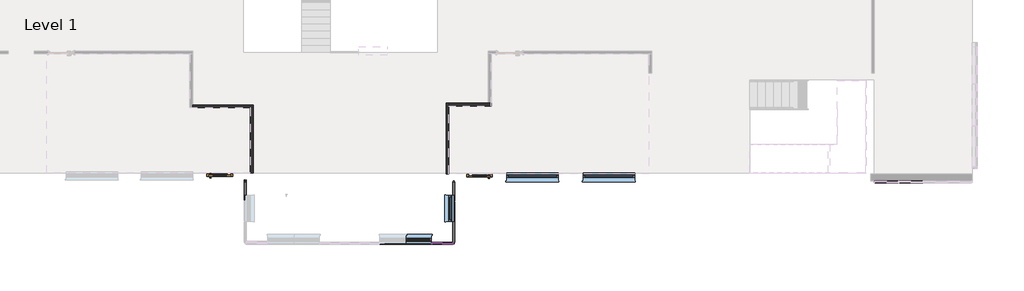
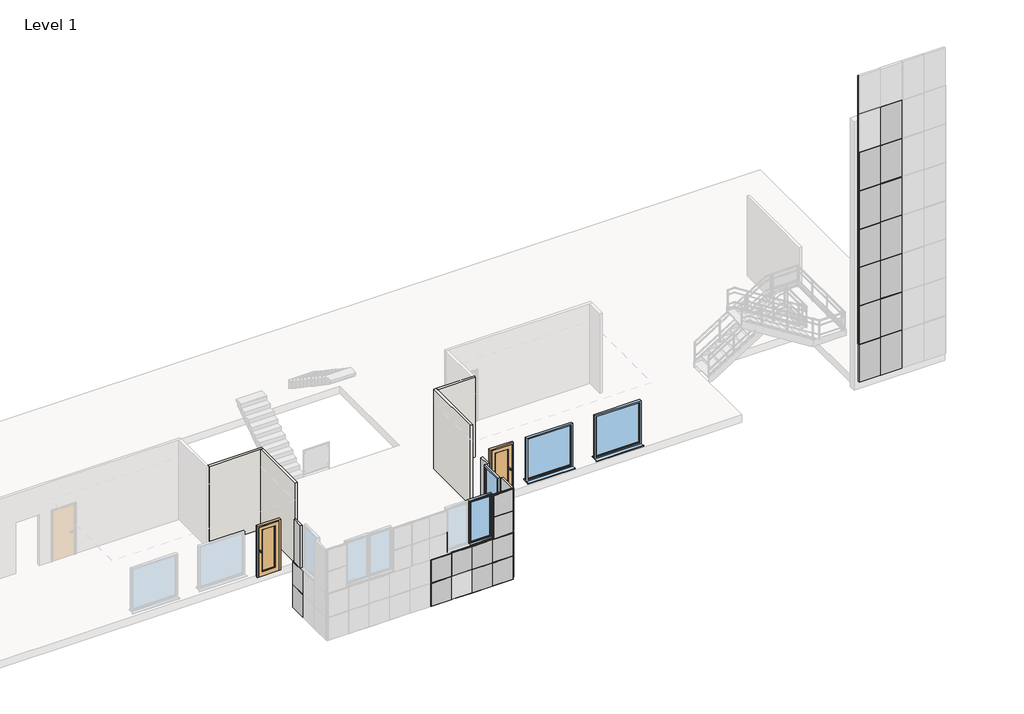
# One storey, part 2 of 10: 64 members, 33 plates, 4 walls, 4 windows, 2 doors.
"""IFC4 building model written with IfcOpenShell, lengths in millimetres."""

from ifc_helpers import new_model, si_unit, frame, origin, place, context, project, spatial, polyline, outline, extrude, faceted_brep, transform, mapped, element, save
from components import doors_extsgl_1_910x2110mm_7b8cb358, doors_extsgl_1_910x2110mm_947c59ca, rectangular_mullion_25x25mm_786a5d36, rectangular_mullion_25x25mm_25fd254f, rectangular_mullion_25x25mm_74ef4bd3, rectangular_mullion_25x25mm_00ce815f, rectangular_mullion_25x25mm_09969e68, rectangular_mullion_25x25mm_b5c8ab77, rectangular_mullion_25x25mm_60a078a6, rectangular_mullion_25x25mm_5996006d, rectangular_mullion_25x25mm_003a9669, rectangular_mullion_25x25mm_675738ca, rectangular_mullion_25x25mm_25b33903, rectangular_mullion_25x25mm_7f393c03, rectangular_mullion_25x25mm_22961775, rectangular_mullion_25x25mm_fa73f4b8, rectangular_mullion_25x25mm_c7fa3d61, rectangular_mullion_25x25mm_14c15364, rectangular_mullion_25x25mm_6f7df1f0, rectangular_mullion_25x25mm_8c50469f, rectangular_mullion_25x25mm_42a5222e, rectangular_mullion_25x25mm_c4f882d5, rectangular_mullion_25x25mm_d2893cce, rectangular_mullion_25x25mm_730bac77, rectangular_mullion_25x25mm_a2025cdc, curtain_panels_solid_solid_panel_green_b02dfbd0, curtain_panels_solid_solid_panel_green_55c4b870, curtain_panels_solid_solid_panel_green_b8c23153, curtain_panels_solid_solid_panel_green_e58bbc27, curtain_panels_solid_solid_panel_green_723635d2, curtain_panels_solid_solid_panel_green_24dec728, curtain_panels_solid_solid_panel_green_d5b4ba83, curtain_panels_solid_solid_panel_green_c3e145d3, curtain_panels_solid_solid_panel_green_532d5a67, windows_sgl_plain_1810x1810mm_c88d1166, windows_sgl_plain_910x1810mm_eaa5caaf, windows_sgl_plain_910x1810mm_c05862ca

model = new_model("IFC4")

# Units and contexts
model_context = context("Model", 3, world=origin())
ifc_project = project(units=[si_unit("LENGTHUNIT", "METRE", prefix="MILLI")], contexts=[model_context])

# Site, building, storey
site = spatial("IfcSite", under=ifc_project)
building = spatial("IfcBuilding", under=site)
storey = spatial("IfcBuildingStorey", under=building, Name="Level 1", Elevation=3750.0)

# Doors
placement = place(None, origin())
doors_extsgl_1_910x2110mm_shape = doors_extsgl_1_910x2110mm_7b8cb358(model_context)
element("IfcDoor", 1, ObjectType="Doors_ExtSgl_1 : 910x2110mm", at=placement, inside=storey, context=model_context, shape_type="MappedRepresentation", body=[
    mapped(doors_extsgl_1_910x2110mm_shape, transform((25785.7942367, -3410.0053409, 3750.0), x_axis=(-1.0, 0.0, 0.0), y_axis=(0.0, -1.0, 0.0), z_axis=(0.0, 0.0, 1.0))),
])
doors_extsgl_1_910x2110mm_2_shape = doors_extsgl_1_910x2110mm_947c59ca(model_context)
element("IfcDoor", 2, ObjectType="Doors_ExtSgl_1 : 910x2110mm", at=placement, inside=storey, context=model_context, shape_type="MappedRepresentation", body=[
    mapped(doors_extsgl_1_910x2110mm_2_shape, transform((16660.7942367, -3367.5053409, 3750.0), x_axis=(1.0, 0.0, 0.0), y_axis=(0.0, 1.0, 0.0), z_axis=(0.0, 0.0, 1.0))),
])

# Members
rectangular_mullion_25x25mm_shape = rectangular_mullion_25x25mm_786a5d36(model_context)
element("IfcMember", 3, ObjectType="Rectangular Mullion : 25x25mm", at=placement, inside=storey, context=model_context, shape_type="MappedRepresentation", body=[
    mapped(rectangular_mullion_25x25mm_shape, transform((24873.2942367, -4250.005341, 4050.0), x_axis=(0.0, 0.0, 1.0), y_axis=(-1.0, 0.0, 0.0), z_axis=(0.0, -1.0, 0.0))),
])
rectangular_mullion_25x25mm_2_shape = rectangular_mullion_25x25mm_25fd254f(model_context)
element("IfcMember", 4, ObjectType="Rectangular Mullion : 25x25mm", at=placement, inside=storey, context=model_context, shape_type="MappedRepresentation", body=[
    mapped(rectangular_mullion_25x25mm_2_shape, transform((24873.2942367, -4977.5053408, 4050.0), x_axis=(0.0, 0.0, 1.0), y_axis=(-1.0, 0.0, 0.0), z_axis=(0.0, -1.0, 0.0))),
])
element("IfcMember", 5, ObjectType="Rectangular Mullion : 25x25mm", at=placement, inside=storey, context=model_context, shape_type="MappedRepresentation", body=[
    mapped(rectangular_mullion_25x25mm_shape, transform((24873.2942367, -3535.0053409, 2110.0), x_axis=(0.0, 0.0, -1.0), y_axis=(-1.0, 0.0, 0.0), z_axis=(0.0, 1.0, 0.0))),
])
element("IfcMember", 6, ObjectType="Rectangular Mullion : 25x25mm", at=placement, inside=storey, context=model_context, shape_type="MappedRepresentation", body=[
    mapped(rectangular_mullion_25x25mm_2_shape, transform((24873.2942367, -4250.005341, 2110.0), x_axis=(0.0, 0.0, -1.0), y_axis=(-1.0, 0.0, 0.0), z_axis=(0.0, 1.0, 0.0))),
])
rectangular_mullion_25x25mm_3_shape = rectangular_mullion_25x25mm_74ef4bd3(model_context)
element("IfcMember", 7, ObjectType="Rectangular Mullion : 25x25mm", at=placement, inside=storey, context=model_context, shape_type="MappedRepresentation", body=[
    mapped(rectangular_mullion_25x25mm_3_shape, transform((24873.2942367, -4977.5053408, 2110.0), x_axis=(0.0, 0.0, -1.0), y_axis=(-1.0, 0.0, 0.0), z_axis=(0.0, 1.0, 0.0))),
])
rectangular_mullion_25x25mm_4_shape = rectangular_mullion_25x25mm_00ce815f(model_context)
element("IfcMember", 8, ObjectType="Rectangular Mullion : 25x25mm", at=placement, inside=storey, context=model_context, shape_type="MappedRepresentation", body=[
    mapped(rectangular_mullion_25x25mm_4_shape, transform((24873.2942367, -4237.505341, 3080.0), x_axis=(0.0, 0.0, 1.0), y_axis=(-1.0, 0.0, 0.0), z_axis=(0.0, -1.0, 0.0))),
])
rectangular_mullion_25x25mm_5_shape = rectangular_mullion_25x25mm_09969e68(model_context)
element("IfcMember", 9, ObjectType="Rectangular Mullion : 25x25mm", at=placement, inside=storey, context=model_context, shape_type="MappedRepresentation", body=[
    mapped(rectangular_mullion_25x25mm_5_shape, transform((24873.2942367, -4965.0053408, 3080.0), x_axis=(0.0, 0.0, 1.0), y_axis=(-1.0, 0.0, 0.0), z_axis=(0.0, -1.0, 0.0))),
])
element("IfcMember", 10, ObjectType="Rectangular Mullion : 25x25mm", at=placement, inside=storey, context=model_context, shape_type="MappedRepresentation", body=[
    mapped(rectangular_mullion_25x25mm_5_shape, transform((24873.2942367, -5692.5053409, 3080.0), x_axis=(0.0, 0.0, 1.0), y_axis=(-1.0, 0.0, 0.0), z_axis=(0.0, -1.0, 0.0))),
])
rectangular_mullion_25x25mm_6_shape = rectangular_mullion_25x25mm_b5c8ab77(model_context)
element("IfcMember", 11, ObjectType="Rectangular Mullion : 25x25mm", at=placement, inside=storey, context=model_context, shape_type="MappedRepresentation", body=[
    mapped(rectangular_mullion_25x25mm_6_shape, transform((24873.2942367, -4250.005341, 2135.0), x_axis=(0.0, -1.0, 0.0), y_axis=(-1.0, 0.0, 0.0), z_axis=(0.0, 0.0, -1.0))),
])
element("IfcMember", 12, ObjectType="Rectangular Mullion : 25x25mm", at=placement, inside=storey, context=model_context, shape_type="MappedRepresentation", body=[
    mapped(rectangular_mullion_25x25mm_6_shape, transform((24873.2942367, -4977.5053408, 2135.0), x_axis=(0.0, -1.0, 0.0), y_axis=(-1.0, 0.0, 0.0), z_axis=(0.0, 0.0, -1.0))),
])
element("IfcMember", 13, ObjectType="Rectangular Mullion : 25x25mm", at=placement, inside=storey, context=model_context, shape_type="MappedRepresentation", body=[
    mapped(rectangular_mullion_25x25mm_6_shape, transform((24873.2942367, -4250.005341, 3080.0), x_axis=(0.0, -1.0, 0.0), y_axis=(-1.0, 0.0, 0.0), z_axis=(0.0, 0.0, -1.0))),
])
element("IfcMember", 14, ObjectType="Rectangular Mullion : 25x25mm", at=placement, inside=storey, context=model_context, shape_type="MappedRepresentation", body=[
    mapped(rectangular_mullion_25x25mm_6_shape, transform((24873.2942367, -4977.5053408, 3080.0), x_axis=(0.0, -1.0, 0.0), y_axis=(-1.0, 0.0, 0.0), z_axis=(0.0, 0.0, -1.0))),
])
rectangular_mullion_25x25mm_7_shape = rectangular_mullion_25x25mm_60a078a6(model_context)
element("IfcMember", 15, ObjectType="Rectangular Mullion : 25x25mm", at=placement, inside=storey, context=model_context, shape_type="MappedRepresentation", body=[
    mapped(rectangular_mullion_25x25mm_7_shape, transform((24873.2942367, -5717.5053409, 2135.0), x_axis=(0.0, -1.0, 0.0), y_axis=(-1.0, 0.0, 0.0), z_axis=(0.0, 0.0, -1.0))),
])
element("IfcMember", 16, ObjectType="Rectangular Mullion : 25x25mm", at=placement, inside=storey, context=model_context, shape_type="MappedRepresentation", body=[
    mapped(rectangular_mullion_25x25mm_7_shape, transform((24873.2942367, -3535.0053409, 4025.0), x_axis=(0.0, 1.0, 0.0), y_axis=(-1.0, 0.0, 0.0), z_axis=(0.0, 0.0, 1.0))),
])
element("IfcMember", 17, ObjectType="Rectangular Mullion : 25x25mm", at=placement, inside=storey, context=model_context, shape_type="MappedRepresentation", body=[
    mapped(rectangular_mullion_25x25mm_7_shape, transform((24873.2942367, -5717.5053409, 3080.0), x_axis=(0.0, -1.0, 0.0), y_axis=(-1.0, 0.0, 0.0), z_axis=(0.0, 0.0, -1.0))),
])
element("IfcMember", 18, ObjectType="Rectangular Mullion : 25x25mm", at=placement, inside=storey, context=model_context, shape_type="MappedRepresentation", body=[
    mapped(rectangular_mullion_25x25mm_7_shape, transform((24873.2942367, -3535.0053409, 3080.0), x_axis=(0.0, 1.0, 0.0), y_axis=(-1.0, 0.0, 0.0), z_axis=(0.0, 0.0, 1.0))),
])
rectangular_mullion_25x25mm_8_shape = rectangular_mullion_25x25mm_5996006d(model_context)
element("IfcMember", 19, ObjectType="Rectangular Mullion : 25x25mm", at=placement, inside=storey, context=model_context, shape_type="MappedRepresentation", body=[
    mapped(rectangular_mullion_25x25mm_8_shape, transform((17573.2942367, -3475.0053409, 4025.0), x_axis=(0.0, 1.0, 0.0), y_axis=(-1.0, 0.0, 0.0), z_axis=(0.0, 0.0, 1.0))),
])
element("IfcMember", 20, ObjectType="Rectangular Mullion : 25x25mm", at=placement, inside=storey, context=model_context, shape_type="MappedRepresentation", body=[
    mapped(rectangular_mullion_25x25mm_8_shape, transform((17573.2942367, -3475.0053409, 3080.0), x_axis=(0.0, 1.0, 0.0), y_axis=(-1.0, 0.0, 0.0), z_axis=(0.0, 0.0, 1.0))),
])
rectangular_mullion_25x25mm_9_shape = rectangular_mullion_25x25mm_003a9669(model_context)
element("IfcMember", 21, ObjectType="Rectangular Mullion : 25x25mm", at=placement, inside=storey, context=model_context, shape_type="MappedRepresentation", body=[
    mapped(rectangular_mullion_25x25mm_9_shape, transform((17573.2942367, -3475.0053409, 2110.0), x_axis=(0.0, 0.0, -1.0), y_axis=(-1.0, 0.0, 0.0), z_axis=(0.0, 1.0, 0.0))),
])
rectangular_mullion_25x25mm_10_shape = rectangular_mullion_25x25mm_675738ca(model_context)
element("IfcMember", 22, ObjectType="Rectangular Mullion : 25x25mm", at=placement, inside=storey, context=model_context, shape_type="MappedRepresentation", body=[
    mapped(rectangular_mullion_25x25mm_10_shape, transform((24098.2942367, -5717.5053409, 4050.0), x_axis=(-1.0, 0.0, 0.0), y_axis=(0.0, 1.0, 0.0), z_axis=(0.0, 0.0, -1.0))),
])
element("IfcMember", 23, ObjectType="Rectangular Mullion : 25x25mm", at=placement, inside=storey, context=model_context, shape_type="MappedRepresentation", body=[
    mapped(rectangular_mullion_25x25mm_10_shape, transform((24873.2942367, -5717.5053409, 5835.0), x_axis=(1.0, 0.0, 0.0), y_axis=(0.0, 1.0, 0.0), z_axis=(0.0, 0.0, 1.0))),
])
element("IfcMember", 24, ObjectType="Rectangular Mullion : 25x25mm", at=placement, inside=storey, context=model_context, shape_type="MappedRepresentation", body=[
    mapped(rectangular_mullion_25x25mm_10_shape, transform((24098.2942367, -5717.5053409, 4942.5), x_axis=(-1.0, 0.0, 0.0), y_axis=(0.0, 1.0, 0.0), z_axis=(0.0, 0.0, -1.0))),
])
element("IfcMember", 25, ObjectType="Rectangular Mullion : 25x25mm", at=placement, inside=storey, context=model_context, shape_type="MappedRepresentation", body=[
    mapped(rectangular_mullion_25x25mm_10_shape, transform((22288.2942367, -5717.5053409, 4942.5), x_axis=(1.0, 0.0, 0.0), y_axis=(0.0, 1.0, 0.0), z_axis=(0.0, 0.0, 1.0))),
])
element("IfcMember", 26, ObjectType="Rectangular Mullion : 25x25mm", at=placement, inside=storey, context=model_context, shape_type="MappedRepresentation", body=[
    mapped(rectangular_mullion_25x25mm_10_shape, transform((24873.2942367, -5717.5053409, 4942.5), x_axis=(1.0, 0.0, 0.0), y_axis=(0.0, 1.0, 0.0), z_axis=(0.0, 0.0, 1.0))),
])
rectangular_mullion_25x25mm_11_shape = rectangular_mullion_25x25mm_25b33903(model_context)
element("IfcMember", 27, ObjectType="Rectangular Mullion : 25x25mm", at=placement, inside=storey, context=model_context, shape_type="MappedRepresentation", body=[
    mapped(rectangular_mullion_25x25mm_11_shape, transform((24098.2942367, -5717.5053409, 5860.0), x_axis=(0.0, 0.0, 1.0), y_axis=(0.0, 1.0, 0.0), z_axis=(-1.0, 0.0, 0.0))),
])
element("IfcMember", 28, ObjectType="Rectangular Mullion : 25x25mm", at=placement, inside=storey, context=model_context, shape_type="MappedRepresentation", body=[
    mapped(rectangular_mullion_25x25mm_11_shape, transform((24873.2942367, -5717.5053409, 4025.0), x_axis=(0.0, 0.0, -1.0), y_axis=(0.0, 1.0, 0.0), z_axis=(1.0, 0.0, 0.0))),
])
rectangular_mullion_25x25mm_12_shape = rectangular_mullion_25x25mm_7f393c03(model_context)
element("IfcMember", 29, ObjectType="Rectangular Mullion : 25x25mm", at=placement, inside=storey, context=model_context, shape_type="MappedRepresentation", body=[
    mapped(rectangular_mullion_25x25mm_12_shape, transform((24123.2942367, -5717.5053409, 4942.5), x_axis=(0.0, 0.0, 1.0), y_axis=(0.0, 1.0, 0.0), z_axis=(-1.0, 0.0, 0.0))),
])
rectangular_mullion_25x25mm_13_shape = rectangular_mullion_25x25mm_22961775(model_context)
element("IfcMember", 30, ObjectType="Rectangular Mullion : 25x25mm", at=placement, inside=storey, context=model_context, shape_type="MappedRepresentation", body=[
    mapped(rectangular_mullion_25x25mm_13_shape, transform((24052.4609031, -5717.5053409, 2110.0), x_axis=(-1.0, 0.0, 0.0), y_axis=(0.0, 1.0, 0.0), z_axis=(0.0, 0.0, -1.0))),
])
element("IfcMember", 31, ObjectType="Rectangular Mullion : 25x25mm", at=placement, inside=storey, context=model_context, shape_type="MappedRepresentation", body=[
    mapped(rectangular_mullion_25x25mm_13_shape, transform((23244.1275698, -5717.5053409, 2110.0), x_axis=(-1.0, 0.0, 0.0), y_axis=(0.0, 1.0, 0.0), z_axis=(0.0, 0.0, -1.0))),
])
element("IfcMember", 32, ObjectType="Rectangular Mullion : 25x25mm", at=placement, inside=storey, context=model_context, shape_type="MappedRepresentation", body=[
    mapped(rectangular_mullion_25x25mm_13_shape, transform((22435.7942366, -5717.5053409, 2110.0), x_axis=(-1.0, 0.0, 0.0), y_axis=(0.0, 1.0, 0.0), z_axis=(0.0, 0.0, -1.0))),
])
element("IfcMember", 33, ObjectType="Rectangular Mullion : 25x25mm", at=placement, inside=storey, context=model_context, shape_type="MappedRepresentation", body=[
    mapped(rectangular_mullion_25x25mm_13_shape, transform((24052.4609031, -5717.5053409, 3067.5), x_axis=(-1.0, 0.0, 0.0), y_axis=(0.0, 1.0, 0.0), z_axis=(0.0, 0.0, -1.0))),
])
element("IfcMember", 34, ObjectType="Rectangular Mullion : 25x25mm", at=placement, inside=storey, context=model_context, shape_type="MappedRepresentation", body=[
    mapped(rectangular_mullion_25x25mm_13_shape, transform((23244.1275698, -5717.5053409, 3067.5), x_axis=(-1.0, 0.0, 0.0), y_axis=(0.0, 1.0, 0.0), z_axis=(0.0, 0.0, -1.0))),
])
element("IfcMember", 35, ObjectType="Rectangular Mullion : 25x25mm", at=placement, inside=storey, context=model_context, shape_type="MappedRepresentation", body=[
    mapped(rectangular_mullion_25x25mm_13_shape, transform((22435.7942366, -5717.5053409, 3067.5), x_axis=(-1.0, 0.0, 0.0), y_axis=(0.0, 1.0, 0.0), z_axis=(0.0, 0.0, -1.0))),
])
rectangular_mullion_25x25mm_14_shape = rectangular_mullion_25x25mm_fa73f4b8(model_context)
element("IfcMember", 36, ObjectType="Rectangular Mullion : 25x25mm", at=placement, inside=storey, context=model_context, shape_type="MappedRepresentation", body=[
    mapped(rectangular_mullion_25x25mm_14_shape, transform((24873.2942367, -5717.5053409, 4025.0), x_axis=(1.0, 0.0, 0.0), y_axis=(0.0, 1.0, 0.0), z_axis=(0.0, 0.0, 1.0))),
])
element("IfcMember", 37, ObjectType="Rectangular Mullion : 25x25mm", at=placement, inside=storey, context=model_context, shape_type="MappedRepresentation", body=[
    mapped(rectangular_mullion_25x25mm_14_shape, transform((24873.2942367, -5717.5053409, 3067.5), x_axis=(1.0, 0.0, 0.0), y_axis=(0.0, 1.0, 0.0), z_axis=(0.0, 0.0, 1.0))),
])
rectangular_mullion_25x25mm_15_shape = rectangular_mullion_25x25mm_c7fa3d61(model_context)
element("IfcMember", 38, ObjectType="Rectangular Mullion : 25x25mm", at=placement, inside=storey, context=model_context, shape_type="MappedRepresentation", body=[
    mapped(rectangular_mullion_25x25mm_15_shape, transform((24873.2942367, -5717.5053409, 4050.0), x_axis=(0.0, 0.0, 1.0), y_axis=(-1.0, 0.0, 0.0), z_axis=(0.0, -1.0, 0.0))),
])
rectangular_mullion_25x25mm_16_shape = rectangular_mullion_25x25mm_14c15364(model_context)
element("IfcMember", 39, ObjectType="Rectangular Mullion : 25x25mm", at=placement, inside=storey, context=model_context, shape_type="MappedRepresentation", body=[
    mapped(rectangular_mullion_25x25mm_16_shape, transform((24052.4609031, -5717.5053409, 4050.0), x_axis=(0.0, 0.0, 1.0), y_axis=(0.0, 1.0, 0.0), z_axis=(-1.0, 0.0, 0.0))),
])
rectangular_mullion_25x25mm_17_shape = rectangular_mullion_25x25mm_6f7df1f0(model_context)
element("IfcMember", 40, ObjectType="Rectangular Mullion : 25x25mm", at=placement, inside=storey, context=model_context, shape_type="MappedRepresentation", body=[
    mapped(rectangular_mullion_25x25mm_17_shape, transform((24873.2942367, -5717.5053409, 2085.0), x_axis=(0.0, 0.0, -1.0), y_axis=(0.0, 1.0, 0.0), z_axis=(1.0, 0.0, 0.0))),
])
rectangular_mullion_25x25mm_18_shape = rectangular_mullion_25x25mm_8c50469f(model_context)
element("IfcMember", 41, ObjectType="Rectangular Mullion : 25x25mm", at=placement, inside=storey, context=model_context, shape_type="MappedRepresentation", body=[
    mapped(rectangular_mullion_25x25mm_18_shape, transform((23244.1275698, -5717.5053409, 4050.0), x_axis=(0.0, 0.0, 1.0), y_axis=(0.0, 1.0, 0.0), z_axis=(-1.0, 0.0, 0.0))),
])
element("IfcMember", 42, ObjectType="Rectangular Mullion : 25x25mm", at=placement, inside=storey, context=model_context, shape_type="MappedRepresentation", body=[
    mapped(rectangular_mullion_25x25mm_18_shape, transform((22435.7942366, -5717.5053409, 4050.0), x_axis=(0.0, 0.0, 1.0), y_axis=(0.0, 1.0, 0.0), z_axis=(-1.0, 0.0, 0.0))),
])
element("IfcMember", 43, ObjectType="Rectangular Mullion : 25x25mm", at=placement, inside=storey, context=model_context, shape_type="MappedRepresentation", body=[
    mapped(rectangular_mullion_25x25mm_18_shape, transform((24052.4609031, -5717.5053409, 2085.0), x_axis=(0.0, 0.0, -1.0), y_axis=(0.0, 1.0, 0.0), z_axis=(1.0, 0.0, 0.0))),
])
element("IfcMember", 44, ObjectType="Rectangular Mullion : 25x25mm", at=placement, inside=storey, context=model_context, shape_type="MappedRepresentation", body=[
    mapped(rectangular_mullion_25x25mm_18_shape, transform((23244.1275698, -5717.5053409, 2085.0), x_axis=(0.0, 0.0, -1.0), y_axis=(0.0, 1.0, 0.0), z_axis=(1.0, 0.0, 0.0))),
])
element("IfcMember", 45, ObjectType="Rectangular Mullion : 25x25mm", at=placement, inside=storey, context=model_context, shape_type="MappedRepresentation", body=[
    mapped(rectangular_mullion_25x25mm_18_shape, transform((22435.7942366, -5717.5053409, 2085.0), x_axis=(0.0, 0.0, -1.0), y_axis=(0.0, 1.0, 0.0), z_axis=(1.0, 0.0, 0.0))),
])
rectangular_mullion_25x25mm_19_shape = rectangular_mullion_25x25mm_42a5222e(model_context)
element("IfcMember", 46, ObjectType="Rectangular Mullion : 25x25mm", at=placement, inside=storey, context=model_context, shape_type="MappedRepresentation", body=[
    mapped(rectangular_mullion_25x25mm_19_shape, transform((24064.9609031, -5717.5053409, 3067.5), x_axis=(0.0, 0.0, 1.0), y_axis=(0.0, 1.0, 0.0), z_axis=(-1.0, 0.0, 0.0))),
])
element("IfcMember", 47, ObjectType="Rectangular Mullion : 25x25mm", at=placement, inside=storey, context=model_context, shape_type="MappedRepresentation", body=[
    mapped(rectangular_mullion_25x25mm_19_shape, transform((23256.6275698, -5717.5053409, 3067.5), x_axis=(0.0, 0.0, 1.0), y_axis=(0.0, 1.0, 0.0), z_axis=(-1.0, 0.0, 0.0))),
])
element("IfcMember", 48, ObjectType="Rectangular Mullion : 25x25mm", at=placement, inside=storey, context=model_context, shape_type="MappedRepresentation", body=[
    mapped(rectangular_mullion_25x25mm_19_shape, transform((22448.2942366, -5717.5053409, 3067.5), x_axis=(0.0, 0.0, 1.0), y_axis=(0.0, 1.0, 0.0), z_axis=(-1.0, 0.0, 0.0))),
])
rectangular_mullion_25x25mm_20_shape = rectangular_mullion_25x25mm_c4f882d5(model_context)
element("IfcMember", 49, ObjectType="Rectangular Mullion : 25x25mm", at=placement, inside=storey, context=model_context, shape_type="MappedRepresentation", body=[
    mapped(rectangular_mullion_25x25mm_20_shape, transform((40534.0442368, -3560.0053409, 5353.125), x_axis=(0.0, 0.0, 1.0), y_axis=(0.0, 1.0, 0.0), z_axis=(-1.0, 0.0, 0.0))),
])
element("IfcMember", 50, ObjectType="Rectangular Mullion : 25x25mm", at=placement, inside=storey, context=model_context, shape_type="MappedRepresentation", body=[
    mapped(rectangular_mullion_25x25mm_20_shape, transform((39680.7942367, -3560.0053409, 5353.125), x_axis=(0.0, 0.0, 1.0), y_axis=(0.0, 1.0, 0.0), z_axis=(-1.0, 0.0, 0.0))),
])
element("IfcMember", 51, ObjectType="Rectangular Mullion : 25x25mm", at=placement, inside=storey, context=model_context, shape_type="MappedRepresentation", body=[
    mapped(rectangular_mullion_25x25mm_20_shape, transform((40534.0442368, -3560.0053409, 6943.75), x_axis=(0.0, 0.0, 1.0), y_axis=(0.0, 1.0, 0.0), z_axis=(-1.0, 0.0, 0.0))),
])
element("IfcMember", 52, ObjectType="Rectangular Mullion : 25x25mm", at=placement, inside=storey, context=model_context, shape_type="MappedRepresentation", body=[
    mapped(rectangular_mullion_25x25mm_20_shape, transform((39680.7942367, -3560.0053409, 6943.75), x_axis=(0.0, 0.0, 1.0), y_axis=(0.0, 1.0, 0.0), z_axis=(-1.0, 0.0, 0.0))),
])
element("IfcMember", 53, ObjectType="Rectangular Mullion : 25x25mm", at=placement, inside=storey, context=model_context, shape_type="MappedRepresentation", body=[
    mapped(rectangular_mullion_25x25mm_20_shape, transform((39680.7942367, -3560.0053409, 8534.375), x_axis=(0.0, 0.0, 1.0), y_axis=(0.0, 1.0, 0.0), z_axis=(-1.0, 0.0, 0.0))),
])
element("IfcMember", 54, ObjectType="Rectangular Mullion : 25x25mm", at=placement, inside=storey, context=model_context, shape_type="MappedRepresentation", body=[
    mapped(rectangular_mullion_25x25mm_20_shape, transform((39680.7942367, -3560.0053409, 10125.0), x_axis=(0.0, 0.0, 1.0), y_axis=(0.0, 1.0, 0.0), z_axis=(-1.0, 0.0, 0.0))),
])
element("IfcMember", 55, ObjectType="Rectangular Mullion : 25x25mm", at=placement, inside=storey, context=model_context, shape_type="MappedRepresentation", body=[
    mapped(rectangular_mullion_25x25mm_20_shape, transform((39680.7942367, -3560.0053409, 11715.625), x_axis=(0.0, 0.0, 1.0), y_axis=(0.0, 1.0, 0.0), z_axis=(-1.0, 0.0, 0.0))),
])
element("IfcMember", 56, ObjectType="Rectangular Mullion : 25x25mm", at=placement, inside=storey, context=model_context, shape_type="MappedRepresentation", body=[
    mapped(rectangular_mullion_25x25mm_20_shape, transform((39680.7942367, -3560.0053409, 13306.25), x_axis=(0.0, 0.0, 1.0), y_axis=(0.0, 1.0, 0.0), z_axis=(-1.0, 0.0, 0.0))),
])
element("IfcMember", 57, ObjectType="Rectangular Mullion : 25x25mm", at=placement, inside=storey, context=model_context, shape_type="MappedRepresentation", body=[
    mapped(rectangular_mullion_25x25mm_20_shape, transform((39680.7942367, -3560.0053409, 14896.875), x_axis=(0.0, 0.0, 1.0), y_axis=(0.0, 1.0, 0.0), z_axis=(-1.0, 0.0, 0.0))),
])
rectangular_mullion_25x25mm_21_shape = rectangular_mullion_25x25mm_d2893cce(model_context)
element("IfcMember", 58, ObjectType="Rectangular Mullion : 25x25mm", at=placement, inside=storey, context=model_context, shape_type="MappedRepresentation", body=[
    mapped(rectangular_mullion_25x25mm_21_shape, transform((40521.5442368, -3560.0053409, 5353.125), x_axis=(-1.0, 0.0, 0.0), y_axis=(0.0, 1.0, 0.0), z_axis=(0.0, 0.0, -1.0))),
])
element("IfcMember", 59, ObjectType="Rectangular Mullion : 25x25mm", at=placement, inside=storey, context=model_context, shape_type="MappedRepresentation", body=[
    mapped(rectangular_mullion_25x25mm_21_shape, transform((40521.5442368, -3560.0053409, 6943.75), x_axis=(-1.0, 0.0, 0.0), y_axis=(0.0, 1.0, 0.0), z_axis=(0.0, 0.0, -1.0))),
])
rectangular_mullion_25x25mm_22_shape = rectangular_mullion_25x25mm_730bac77(model_context)
element("IfcMember", 60, ObjectType="Rectangular Mullion : 25x25mm", at=placement, inside=storey, context=model_context, shape_type="MappedRepresentation", body=[
    mapped(rectangular_mullion_25x25mm_22_shape, transform((39655.7942367, -3560.0053409, 5353.125), x_axis=(-1.0, 0.0, 0.0), y_axis=(0.0, 1.0, 0.0), z_axis=(0.0, 0.0, -1.0))),
])
element("IfcMember", 61, ObjectType="Rectangular Mullion : 25x25mm", at=placement, inside=storey, context=model_context, shape_type="MappedRepresentation", body=[
    mapped(rectangular_mullion_25x25mm_22_shape, transform((39655.7942367, -3560.0053409, 6943.75), x_axis=(-1.0, 0.0, 0.0), y_axis=(0.0, 1.0, 0.0), z_axis=(0.0, 0.0, -1.0))),
])
element("IfcMember", 62, ObjectType="Rectangular Mullion : 25x25mm", at=placement, inside=storey, context=model_context, shape_type="MappedRepresentation", body=[
    mapped(rectangular_mullion_25x25mm_22_shape, transform((39655.7942367, -3560.0053409, 8534.375), x_axis=(-1.0, 0.0, 0.0), y_axis=(0.0, 1.0, 0.0), z_axis=(0.0, 0.0, -1.0))),
])
element("IfcMember", 63, ObjectType="Rectangular Mullion : 25x25mm", at=placement, inside=storey, context=model_context, shape_type="MappedRepresentation", body=[
    mapped(rectangular_mullion_25x25mm_22_shape, transform((39655.7942367, -3560.0053409, 10125.0), x_axis=(-1.0, 0.0, 0.0), y_axis=(0.0, 1.0, 0.0), z_axis=(0.0, 0.0, -1.0))),
])
element("IfcMember", 64, ObjectType="Rectangular Mullion : 25x25mm", at=placement, inside=storey, context=model_context, shape_type="MappedRepresentation", body=[
    mapped(rectangular_mullion_25x25mm_22_shape, transform((39655.7942367, -3560.0053409, 11715.625), x_axis=(-1.0, 0.0, 0.0), y_axis=(0.0, 1.0, 0.0), z_axis=(0.0, 0.0, -1.0))),
])
element("IfcMember", 65, ObjectType="Rectangular Mullion : 25x25mm", at=placement, inside=storey, context=model_context, shape_type="MappedRepresentation", body=[
    mapped(rectangular_mullion_25x25mm_22_shape, transform((39655.7942367, -3560.0053409, 13306.25), x_axis=(-1.0, 0.0, 0.0), y_axis=(0.0, 1.0, 0.0), z_axis=(0.0, 0.0, -1.0))),
])
rectangular_mullion_25x25mm_23_shape = rectangular_mullion_25x25mm_a2025cdc(model_context)
element("IfcMember", 66, ObjectType="Rectangular Mullion : 25x25mm", at=placement, inside=storey, context=model_context, shape_type="MappedRepresentation", body=[
    mapped(rectangular_mullion_25x25mm_23_shape, transform((39655.7942367, -3560.0053409, 14896.875), x_axis=(-1.0, 0.0, 0.0), y_axis=(0.0, 1.0, 0.0), z_axis=(0.0, 0.0, -1.0))),
])

# Plates
curtain_panels_solid_solid_panel_green_shape = curtain_panels_solid_solid_panel_green_b02dfbd0(model_context)
element("IfcPlate", 67, ObjectType="Curtain_Panels_Solid : Solid_Panel_Green", at=placement, inside=storey, context=model_context, shape_type="MappedRepresentation", body=[
    mapped(curtain_panels_solid_solid_panel_green_shape, transform((24873.2942367, -3898.7553409, 2135.0), x_axis=(0.0, -1.0, 0.0), y_axis=(1.0, 0.0, 0.0), z_axis=(0.0, 0.0, 1.0))),
])
element("IfcPlate", 68, ObjectType="Curtain_Panels_Solid : Solid_Panel_Green", at=placement, inside=storey, context=model_context, shape_type="MappedRepresentation", body=[
    mapped(curtain_panels_solid_solid_panel_green_shape, transform((24873.2942367, -3898.7553409, 3092.5), x_axis=(0.0, -1.0, 0.0), y_axis=(1.0, 0.0, 0.0), z_axis=(0.0, 0.0, 1.0))),
])
curtain_panels_solid_solid_panel_green_2_shape = curtain_panels_solid_solid_panel_green_55c4b870(model_context)
element("IfcPlate", 69, ObjectType="Curtain_Panels_Solid : Solid_Panel_Green", at=placement, inside=storey, context=model_context, shape_type="MappedRepresentation", body=[
    mapped(curtain_panels_solid_solid_panel_green_2_shape, transform((24873.2942367, -4613.7553409, 2135.0), x_axis=(0.0, -1.0, 0.0), y_axis=(1.0, 0.0, 0.0), z_axis=(0.0, 0.0, 1.0))),
])
element("IfcPlate", 70, ObjectType="Curtain_Panels_Solid : Solid_Panel_Green", at=placement, inside=storey, context=model_context, shape_type="MappedRepresentation", body=[
    mapped(curtain_panels_solid_solid_panel_green_2_shape, transform((24873.2942367, -5341.2553408, 2135.0), x_axis=(0.0, -1.0, 0.0), y_axis=(1.0, 0.0, 0.0), z_axis=(0.0, 0.0, 1.0))),
])
element("IfcPlate", 71, ObjectType="Curtain_Panels_Solid : Solid_Panel_Green", at=placement, inside=storey, context=model_context, shape_type="MappedRepresentation", body=[
    mapped(curtain_panels_solid_solid_panel_green_2_shape, transform((24873.2942367, -4613.7553409, 3092.5), x_axis=(0.0, -1.0, 0.0), y_axis=(1.0, 0.0, 0.0), z_axis=(0.0, 0.0, 1.0))),
])
element("IfcPlate", 72, ObjectType="Curtain_Panels_Solid : Solid_Panel_Green", at=placement, inside=storey, context=model_context, shape_type="MappedRepresentation", body=[
    mapped(curtain_panels_solid_solid_panel_green_2_shape, transform((24873.2942367, -5341.2553408, 3092.5), x_axis=(0.0, -1.0, 0.0), y_axis=(1.0, 0.0, 0.0), z_axis=(0.0, 0.0, 1.0))),
])
curtain_panels_solid_solid_panel_green_3_shape = curtain_panels_solid_solid_panel_green_b8c23153(model_context)
element("IfcPlate", 73, ObjectType="Curtain_Panels_Solid : Solid_Panel_Green", at=placement, inside=storey, context=model_context, shape_type="MappedRepresentation", body=[
    mapped(curtain_panels_solid_solid_panel_green_3_shape, transform((24873.2942367, -5337.5053409, 4075.0), x_axis=(0.0, -1.0, 0.0), y_axis=(1.0, 0.0, 0.0), z_axis=(0.0, 0.0, 1.0))),
])
curtain_panels_solid_solid_panel_green_4_shape = curtain_panels_solid_solid_panel_green_e58bbc27(model_context)
element("IfcPlate", 74, ObjectType="Curtain_Panels_Solid : Solid_Panel_Green", at=placement, inside=storey, context=model_context, shape_type="MappedRepresentation", body=[
    mapped(curtain_panels_solid_solid_panel_green_4_shape, transform((24873.2942367, -3803.1303409, 4075.0), x_axis=(0.0, -1.0, 0.0), y_axis=(1.0, 0.0, 0.0), z_axis=(0.0, 0.0, 1.0))),
])
curtain_panels_solid_solid_panel_green_5_shape = curtain_panels_solid_solid_panel_green_723635d2(model_context)
element("IfcPlate", 75, ObjectType="Curtain_Panels_Solid : Solid_Panel_Green", at=placement, inside=storey, context=model_context, shape_type="MappedRepresentation", body=[
    mapped(curtain_panels_solid_solid_panel_green_5_shape, transform((17573.2942367, -3803.1303409, 4075.0), x_axis=(0.0, -1.0, 0.0), y_axis=(1.0, 0.0, 0.0), z_axis=(0.0, 0.0, 1.0))),
])
curtain_panels_solid_solid_panel_green_6_shape = curtain_panels_solid_solid_panel_green_24dec728(model_context)
element("IfcPlate", 76, ObjectType="Curtain_Panels_Solid : Solid_Panel_Green", at=placement, inside=storey, context=model_context, shape_type="MappedRepresentation", body=[
    mapped(curtain_panels_solid_solid_panel_green_6_shape, transform((17573.2942367, -3848.7553409, 2135.0), x_axis=(0.0, -1.0, 0.0), y_axis=(1.0, 0.0, 0.0), z_axis=(0.0, 0.0, 1.0))),
])
element("IfcPlate", 77, ObjectType="Curtain_Panels_Solid : Solid_Panel_Green", at=placement, inside=storey, context=model_context, shape_type="MappedRepresentation", body=[
    mapped(curtain_panels_solid_solid_panel_green_6_shape, transform((17573.2942367, -3848.7553409, 3092.5), x_axis=(0.0, -1.0, 0.0), y_axis=(1.0, 0.0, 0.0), z_axis=(0.0, 0.0, 1.0))),
])
curtain_panels_solid_solid_panel_green_7_shape = curtain_panels_solid_solid_panel_green_d5b4ba83(model_context)
element("IfcPlate", 78, ObjectType="Curtain_Panels_Solid : Solid_Panel_Green", at=placement, inside=storey, context=model_context, shape_type="MappedRepresentation", body=[
    mapped(curtain_panels_solid_solid_panel_green_7_shape, transform((24485.7942367, -5717.5053409, 4050.0), x_axis=(-1.0, 0.0, 0.0), y_axis=(0.0, -1.0, 0.0), z_axis=(0.0, 0.0, 1.0))),
])
element("IfcPlate", 79, ObjectType="Curtain_Panels_Solid : Solid_Panel_Green", at=placement, inside=storey, context=model_context, shape_type="MappedRepresentation", body=[
    mapped(curtain_panels_solid_solid_panel_green_7_shape, transform((24485.7942367, -5717.5053409, 4955.0), x_axis=(-1.0, 0.0, 0.0), y_axis=(0.0, -1.0, 0.0), z_axis=(0.0, 0.0, 1.0))),
])
curtain_panels_solid_solid_panel_green_8_shape = curtain_panels_solid_solid_panel_green_c3e145d3(model_context)
element("IfcPlate", 80, ObjectType="Curtain_Panels_Solid : Solid_Panel_Green", at=placement, inside=storey, context=model_context, shape_type="MappedRepresentation", body=[
    mapped(curtain_panels_solid_solid_panel_green_8_shape, transform((24456.6275699, -5717.5053409, 2110.0), x_axis=(-1.0, 0.0, 0.0), y_axis=(0.0, -1.0, 0.0), z_axis=(0.0, 0.0, 1.0))),
])
element("IfcPlate", 81, ObjectType="Curtain_Panels_Solid : Solid_Panel_Green", at=placement, inside=storey, context=model_context, shape_type="MappedRepresentation", body=[
    mapped(curtain_panels_solid_solid_panel_green_8_shape, transform((23648.2942365, -5717.5053409, 2110.0), x_axis=(-1.0, 0.0, 0.0), y_axis=(0.0, -1.0, 0.0), z_axis=(0.0, 0.0, 1.0))),
])
element("IfcPlate", 82, ObjectType="Curtain_Panels_Solid : Solid_Panel_Green", at=placement, inside=storey, context=model_context, shape_type="MappedRepresentation", body=[
    mapped(curtain_panels_solid_solid_panel_green_8_shape, transform((24456.6275699, -5717.5053409, 3080.0), x_axis=(-1.0, 0.0, 0.0), y_axis=(0.0, -1.0, 0.0), z_axis=(0.0, 0.0, 1.0))),
])
element("IfcPlate", 83, ObjectType="Curtain_Panels_Solid : Solid_Panel_Green", at=placement, inside=storey, context=model_context, shape_type="MappedRepresentation", body=[
    mapped(curtain_panels_solid_solid_panel_green_8_shape, transform((23648.2942365, -5717.5053409, 3080.0), x_axis=(-1.0, 0.0, 0.0), y_axis=(0.0, -1.0, 0.0), z_axis=(0.0, 0.0, 1.0))),
])
element("IfcPlate", 84, ObjectType="Curtain_Panels_Solid : Solid_Panel_Green", at=placement, inside=storey, context=model_context, shape_type="MappedRepresentation", body=[
    mapped(curtain_panels_solid_solid_panel_green_8_shape, transform((22839.9609032, -5717.5053409, 3080.0), x_axis=(-1.0, 0.0, 0.0), y_axis=(0.0, -1.0, 0.0), z_axis=(0.0, 0.0, 1.0))),
])
element("IfcPlate", 85, ObjectType="Curtain_Panels_Solid : Solid_Panel_Green", at=placement, inside=storey, context=model_context, shape_type="MappedRepresentation", body=[
    mapped(curtain_panels_solid_solid_panel_green_8_shape, transform((22031.6275699, -5717.5053409, 2110.0), x_axis=(-1.0, 0.0, 0.0), y_axis=(0.0, -1.0, 0.0), z_axis=(0.0, 0.0, 1.0))),
])
element("IfcPlate", 86, ObjectType="Curtain_Panels_Solid : Solid_Panel_Green", at=placement, inside=storey, context=model_context, shape_type="MappedRepresentation", body=[
    mapped(curtain_panels_solid_solid_panel_green_8_shape, transform((22031.6275699, -5717.5053409, 3080.0), x_axis=(-1.0, 0.0, 0.0), y_axis=(0.0, -1.0, 0.0), z_axis=(0.0, 0.0, 1.0))),
])
curtain_panels_solid_solid_panel_green_9_shape = curtain_panels_solid_solid_panel_green_532d5a67(model_context)
element("IfcPlate", 87, ObjectType="Curtain_Panels_Solid : Solid_Panel_Green", at=placement, inside=storey, context=model_context, shape_type="MappedRepresentation", body=[
    mapped(curtain_panels_solid_solid_panel_green_9_shape, transform((40948.1692368, -3560.0053409, 3775.0), x_axis=(-1.0, 0.0, 0.0), y_axis=(0.0, -1.0, 0.0), z_axis=(0.0, 0.0, 1.0))),
])
element("IfcPlate", 88, ObjectType="Curtain_Panels_Solid : Solid_Panel_Green", at=placement, inside=storey, context=model_context, shape_type="MappedRepresentation", body=[
    mapped(curtain_panels_solid_solid_panel_green_9_shape, transform((40094.9192368, -3560.0053409, 3775.0), x_axis=(-1.0, 0.0, 0.0), y_axis=(0.0, -1.0, 0.0), z_axis=(0.0, 0.0, 1.0))),
])
element("IfcPlate", 89, ObjectType="Curtain_Panels_Solid : Solid_Panel_Green", at=placement, inside=storey, context=model_context, shape_type="MappedRepresentation", body=[
    mapped(curtain_panels_solid_solid_panel_green_9_shape, transform((40948.1692368, -3560.0053409, 5365.625), x_axis=(-1.0, 0.0, 0.0), y_axis=(0.0, -1.0, 0.0), z_axis=(0.0, 0.0, 1.0))),
])
element("IfcPlate", 90, ObjectType="Curtain_Panels_Solid : Solid_Panel_Green", at=placement, inside=storey, context=model_context, shape_type="MappedRepresentation", body=[
    mapped(curtain_panels_solid_solid_panel_green_9_shape, transform((40094.9192368, -3560.0053409, 5365.625), x_axis=(-1.0, 0.0, 0.0), y_axis=(0.0, -1.0, 0.0), z_axis=(0.0, 0.0, 1.0))),
])
element("IfcPlate", 91, ObjectType="Curtain_Panels_Solid : Solid_Panel_Green", at=placement, inside=storey, context=model_context, shape_type="MappedRepresentation", body=[
    mapped(curtain_panels_solid_solid_panel_green_9_shape, transform((40948.1692368, -3560.0053409, 6956.25), x_axis=(-1.0, 0.0, 0.0), y_axis=(0.0, -1.0, 0.0), z_axis=(0.0, 0.0, 1.0))),
])
element("IfcPlate", 92, ObjectType="Curtain_Panels_Solid : Solid_Panel_Green", at=placement, inside=storey, context=model_context, shape_type="MappedRepresentation", body=[
    mapped(curtain_panels_solid_solid_panel_green_9_shape, transform((40094.9192368, -3560.0053409, 6956.25), x_axis=(-1.0, 0.0, 0.0), y_axis=(0.0, -1.0, 0.0), z_axis=(0.0, 0.0, 1.0))),
])
element("IfcPlate", 93, ObjectType="Curtain_Panels_Solid : Solid_Panel_Green", at=placement, inside=storey, context=model_context, shape_type="MappedRepresentation", body=[
    mapped(curtain_panels_solid_solid_panel_green_9_shape, transform((40948.1692368, -3560.0053409, 8546.875), x_axis=(-1.0, 0.0, 0.0), y_axis=(0.0, -1.0, 0.0), z_axis=(0.0, 0.0, 1.0))),
])
element("IfcPlate", 94, ObjectType="Curtain_Panels_Solid : Solid_Panel_Green", at=placement, inside=storey, context=model_context, shape_type="MappedRepresentation", body=[
    mapped(curtain_panels_solid_solid_panel_green_9_shape, transform((40094.9192368, -3560.0053409, 8546.875), x_axis=(-1.0, 0.0, 0.0), y_axis=(0.0, -1.0, 0.0), z_axis=(0.0, 0.0, 1.0))),
])
element("IfcPlate", 95, ObjectType="Curtain_Panels_Solid : Solid_Panel_Green", at=placement, inside=storey, context=model_context, shape_type="MappedRepresentation", body=[
    mapped(curtain_panels_solid_solid_panel_green_9_shape, transform((40948.1692368, -3560.0053409, 10137.5), x_axis=(-1.0, 0.0, 0.0), y_axis=(0.0, -1.0, 0.0), z_axis=(0.0, 0.0, 1.0))),
])
element("IfcPlate", 96, ObjectType="Curtain_Panels_Solid : Solid_Panel_Green", at=placement, inside=storey, context=model_context, shape_type="MappedRepresentation", body=[
    mapped(curtain_panels_solid_solid_panel_green_9_shape, transform((40094.9192368, -3560.0053409, 10137.5), x_axis=(-1.0, 0.0, 0.0), y_axis=(0.0, -1.0, 0.0), z_axis=(0.0, 0.0, 1.0))),
])
element("IfcPlate", 97, ObjectType="Curtain_Panels_Solid : Solid_Panel_Green", at=placement, inside=storey, context=model_context, shape_type="MappedRepresentation", body=[
    mapped(curtain_panels_solid_solid_panel_green_9_shape, transform((40948.1692368, -3560.0053409, 11728.125), x_axis=(-1.0, 0.0, 0.0), y_axis=(0.0, -1.0, 0.0), z_axis=(0.0, 0.0, 1.0))),
])
element("IfcPlate", 98, ObjectType="Curtain_Panels_Solid : Solid_Panel_Green", at=placement, inside=storey, context=model_context, shape_type="MappedRepresentation", body=[
    mapped(curtain_panels_solid_solid_panel_green_9_shape, transform((40094.9192368, -3560.0053409, 11728.125), x_axis=(-1.0, 0.0, 0.0), y_axis=(0.0, -1.0, 0.0), z_axis=(0.0, 0.0, 1.0))),
])
element("IfcPlate", 99, ObjectType="Curtain_Panels_Solid : Solid_Panel_Green", at=placement, inside=storey, context=model_context, shape_type="MappedRepresentation", body=[
    mapped(curtain_panels_solid_solid_panel_green_9_shape, transform((40948.1692368, -3560.0053409, 13318.75), x_axis=(-1.0, 0.0, 0.0), y_axis=(0.0, -1.0, 0.0), z_axis=(0.0, 0.0, 1.0))),
])

# Walls
element("IfcWall", 100, ObjectType="Wall-Partn_12P-70MStd-12P", at=placement, inside=storey, context=model_context, shape_type="Brep", body=[
    faceted_brep([(15705.7942367, -955.0053409, 3750.0), (17735.7942367, -955.0053409, 3750.0), (17830.7942367, -955.0053409, 3750.0), (17830.7942367, -955.0053409, 7065.0), (17735.7942367, -955.0053409, 7065.0), (15705.7942367, -955.0053409, 7065.0), (15705.7942367, -860.0053409, 3750.0), (15705.7942367, -860.0053409, 7065.0), (17830.7942367, -860.0053409, 7065.0), (17830.7942367, -860.0053409, 3750.0)], [[[0, 1, 2, 3, 4, 5]], [[6, 7, 8, 9]], [[2, 1, 0, 6, 9]], [[5, 4, 3, 8, 7]], [[0, 5, 7, 6]], [[3, 2, 9, 8]]]),
])
element("IfcWall", 101, ObjectType="Wall-Partn_12P-70MStd-12P", at=placement, inside=storey, context=model_context, shape_type="SweptSolid", body=[
    extrude(outline(polyline([(17735.7942367, -3259.5053409), (17735.7942367, -955.0053409), (17830.7942367, -955.0053409), (17830.7942367, -3259.5053409), (17735.7942367, -3259.5053409)])), frame((0.0, 0.0, 3750.0), z_axis=(0.0, 0.0, 1.0), x_axis=(1.0, 0.0, 0.0)), (0.0, 0.0, 1.0), 3315.0),
])
element("IfcWall", 102, ObjectType="Wall-Partn_12P-70MStd-12P", at=placement, inside=storey, context=model_context, shape_type="Brep", body=[
    faceted_brep([(24710.7942367, -3285.0053409, 3750.0), (24710.7942367, -895.6472731, 3750.0), (24710.7942367, -800.6472731, 3750.0), (24710.7942367, -800.6472731, 7065.0), (24710.7942367, -895.6472731, 7065.0), (24710.7942367, -3285.0053409, 7065.0), (24615.7942367, -3285.0053409, 3750.0), (24615.7942367, -3285.0053409, 7065.0), (24615.7942367, -800.6472731, 7065.0), (24615.7942367, -800.6472731, 3750.0)], [[[0, 1, 2, 3, 4, 5]], [[6, 7, 8, 9]], [[2, 1, 0, 6, 9]], [[5, 4, 3, 8, 7]], [[0, 5, 7, 6]], [[3, 2, 9, 8]]]),
])
element("IfcWall", 103, ObjectType="Wall-Partn_12P-70MStd-12P", at=placement, inside=storey, context=model_context, shape_type="Brep", body=[
    faceted_brep([(24710.7942367, -895.6472731, 3750.0), (26193.2942367, -895.6472731, 3750.0), (26193.2942367, -895.6472731, 7065.0), (24710.7942367, -895.6472731, 7065.0), (24710.7942367, -800.6472731, 3750.0), (24710.7942367, -800.6472731, 7065.0), (26098.2942367, -800.6472731, 7065.0), (26193.2942367, -800.6472731, 7065.0), (26193.2942367, -800.6472731, 3750.0), (26098.2942367, -800.6472731, 3750.0)], [[[0, 1, 2, 3]], [[4, 5, 6, 7, 8, 9]], [[1, 0, 4, 9, 8]], [[3, 2, 7, 6, 5]], [[2, 1, 8, 7]], [[0, 3, 5, 4]]]),
])

# Windows
windows_sgl_plain_1810x1810mm_shape = windows_sgl_plain_1810x1810mm_c88d1166(model_context)
element("IfcWindow", 104, ObjectType="Windows_Sgl_Plain : 1810x1810mm", at=placement, inside=storey, context=model_context, shape_type="MappedRepresentation", body=[
    mapped(windows_sgl_plain_1810x1810mm_shape, transform((30331.4942371, -3418.4619087, 3750.0), x_axis=(-1.0, 0.0, 0.0), y_axis=(0.0, -1.0, 0.0), z_axis=(0.0, 0.0, 1.0))),
])
element("IfcWindow", 105, ObjectType="Windows_Sgl_Plain : 1810x1810mm", at=placement, inside=storey, context=model_context, shape_type="MappedRepresentation", body=[
    mapped(windows_sgl_plain_1810x1810mm_shape, transform((27645.7942367, -3418.4619087, 3750.0), x_axis=(-1.0, 0.0, 0.0), y_axis=(0.0, -1.0, 0.0), z_axis=(0.0, 0.0, 1.0))),
])
windows_sgl_plain_910x1810mm_shape = windows_sgl_plain_910x1810mm_eaa5caaf(model_context)
element("IfcWindow", 106, ObjectType="Windows_Sgl_Plain : 910x1810mm", at=placement, inside=storey, context=model_context, shape_type="MappedRepresentation", body=[
    mapped(windows_sgl_plain_910x1810mm_shape, transform((24714.8376688, -4501.2553409, 3750.0), x_axis=(0.0, -1.0, 0.0), y_axis=(1.0, 0.0, 0.0), z_axis=(0.0, 0.0, 1.0))),
])
windows_sgl_plain_910x1810mm_2_shape = windows_sgl_plain_910x1810mm_c05862ca(model_context)
element("IfcWindow", 107, ObjectType="Windows_Sgl_Plain : 910x1810mm", at=placement, inside=storey, context=model_context, shape_type="MappedRepresentation", body=[
    mapped(windows_sgl_plain_910x1810mm_2_shape, transform((23643.2942367, -5559.048773, 3750.0), x_axis=(1.0, 0.0, 0.0), y_axis=(0.0, 1.0, 0.0), z_axis=(0.0, 0.0, 1.0))),
])

save(model, "model.ifc")
